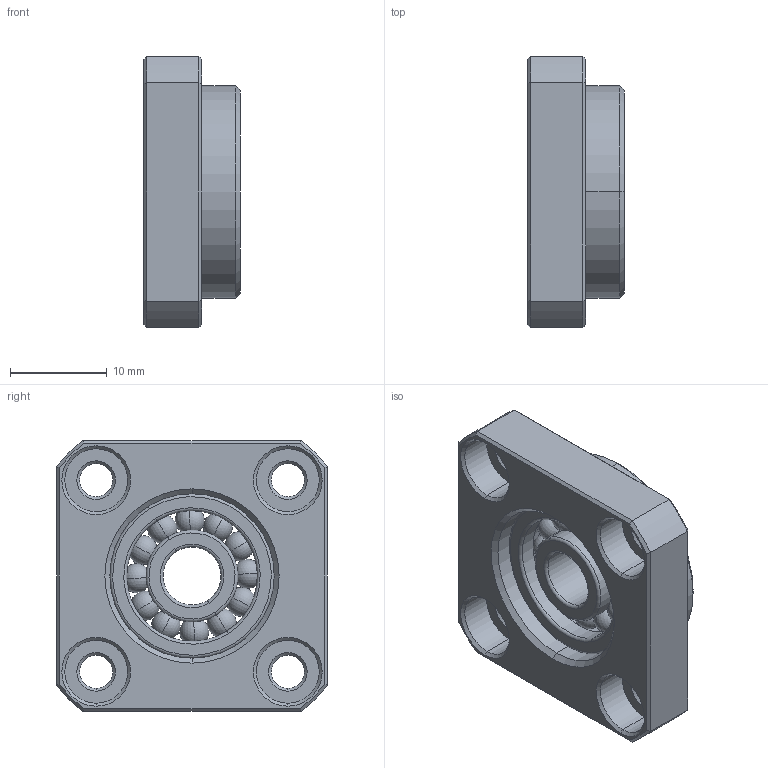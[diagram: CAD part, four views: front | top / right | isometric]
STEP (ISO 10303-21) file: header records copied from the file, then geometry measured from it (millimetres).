
FILE_DESCRIPTION (( 'STEP AP203' ), '1' );
FILE_NAME ('FF06²Õ¦X¥ó.STEP', '2017-12-27T08:41:20', ( '' ), ( '' ), 'SwSTEP 2.0', 'SolidWorks 2017', '' );
FILE_SCHEMA (( 'CONFIG_CONTROL_DESIGN' ));
Length unit declared in the file: millimetre
Products named in the file (1): FF06組合件
Bounding box: 10 x 28 x 28 mm (x, y, z)
Surface area: 3820 mm2 (no closed solid volume)
Topology: 0 solids, 15 shells, 137 faces, 328 edges, 202 vertices
Faces by surface type: cone 38, cylinder 34, sphere 24, plane 23, torus 18
Entity records: 3617 total; most frequent: DIRECTION 696, CARTESIAN_POINT 620, ORIENTED_EDGE 528, AXIS2_PLACEMENT_3D 306, EDGE_CURVE 268, CIRCLE 168, VERTEX_POINT 166, EDGE_LOOP 156
